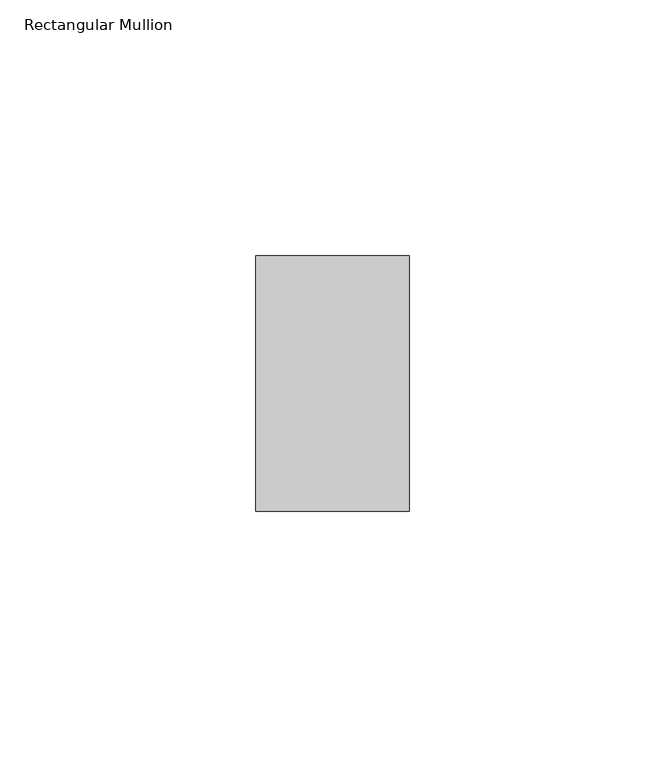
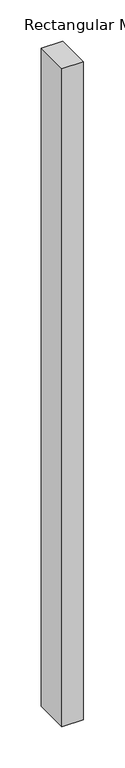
"""IFC4 building model written with IfcOpenShell, lengths in millimetres: member geometry, Rectangular Mullion : ARQ_TV_MULL_50x30mm."""

from ifc_helpers import new_model, si_unit, frame, origin, place, context, project, spatial, polyline, outline, extrude, source, transform, mapped, element, save


def rectangular_mullion_d4b77564(model_context):
    return source(origin(), model_context, "Body", "SweptSolid", [
        extrude(outline(polyline([(0.0, 25.0), (0.0, -25.0), (-30.0, -25.0), (-30.0, 25.0), (0.0, 25.0)])), frame((0.0, 0.0, -972.6074646), z_axis=(0.0, 0.0, 1.0), x_axis=(1.0, 0.0, 0.0)), (0.0, 0.0, 1.0), 972.6074646),
    ])


if __name__ == "__main__":
    model = new_model("IFC4")
    model_context = context("Model", 3, world=origin())
    ifc_project = project(units=[si_unit("LENGTHUNIT", "METRE", prefix="MILLI")], contexts=[model_context])
    site = spatial("IfcSite", under=ifc_project)
    building = spatial("IfcBuilding", under=site)
    placement = place(None, origin())
    rectangular_mullion_shape = rectangular_mullion_d4b77564(model_context)
    element("IfcMember", 1, ObjectType="Rectangular Mullion : ARQ_TV_MULL_50x30mm", at=placement, inside=building, context=model_context, shape_type="MappedRepresentation", body=[
        mapped(rectangular_mullion_shape, transform((0.0, 0.0, 0.0), x_axis=(1.0, 0.0, 0.0), y_axis=(0.0, 1.0, 0.0), z_axis=(0.0, 0.0, 1.0))),
    ])
    save(model, "model.ifc")
